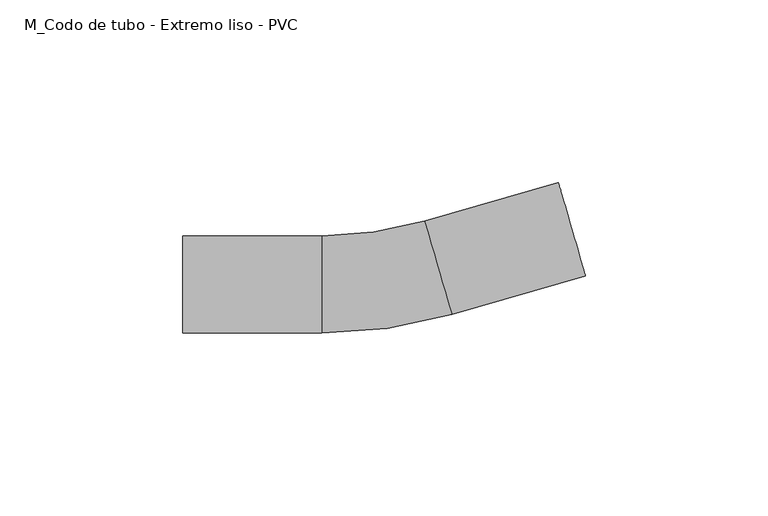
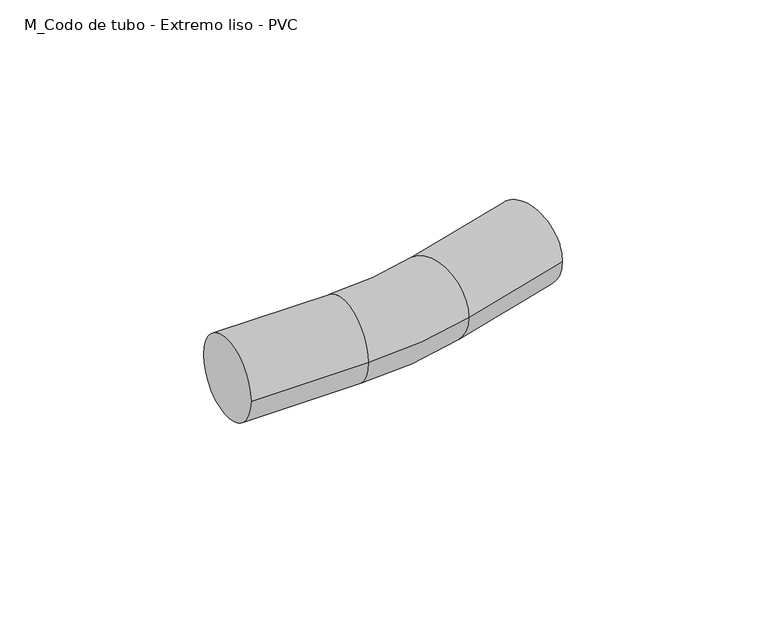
"""IFC4 building model written with IfcOpenShell, lengths in millimetres: cable carrier fitting geometry, M_Codo de tubo - Extremo liso - PVC : CODO ILUMINACION."""

import ifcopenshell
import ifcopenshell.guid

model = None  # the IFC model being written
_history = None  # IfcOwnerHistory: only IFC2X3 demands one
_inside = {}  # id of a spatial element -> (the spatial element, [elements in it])
_under = {}  # id of a project, library or spatial element -> (it, [spatial elements below it])
_declared = {}  # id of a project -> (the project, [libraries it declares])
_typed = {}  # id of a type object -> (the type object, [elements of that type])
_made_of = {}  # id of a material, layer set ... -> (it, [elements and type objects made of it])


def new_model(schema):
    """Start an empty IFC model of exactly this schema.

    Asked for "IFC4X3", IfcOpenShell would pick the latest addendum, in which some entities
    have other attributes; the version numbers below select the first issue.
    IFC2X3 requires an IfcOwnerHistory on every rooted entity: one is made here for all.
    """
    global model, _history
    if schema == "IFC4X3":
        model = ifcopenshell.file(schema_version=(4, 3, 0, 0))
    else:
        model = ifcopenshell.file(schema=schema)
    _inside.clear()
    _under.clear()
    _declared.clear()
    _typed.clear()
    _made_of.clear()
    _history = None
    if model.schema == "IFC2X3":
        org = make("IfcOrganization", Name="unknown")
        user = make(
            "IfcPersonAndOrganization",
            ThePerson=make("IfcPerson", FamilyName="unknown"),
            TheOrganization=org,
        )
        app = make(
            "IfcApplication",
            ApplicationDeveloper=org,
            Version="unknown",
            ApplicationFullName="unknown",
            ApplicationIdentifier="unknown",
        )
        _history = make(
            "IfcOwnerHistory",
            OwningUser=user,
            OwningApplication=app,
            ChangeAction="ADDED",
            CreationDate=0,
        )
    return model


def make(cls, **values):
    """One entity of the class cls with the attributes given. An attribute that is None is left unset."""
    return model.create_entity(
        cls, **{name: value for name, value in values.items() if value is not None}
    )


def rooted(cls, **values):
    """An entity with a GlobalId (a new one), such as an element, a storey or a relation."""
    return make(cls, GlobalId=ifcopenshell.guid.new(), OwnerHistory=_history, **values)


def si_unit(unit_type, name, prefix=None):
    """IfcSIUnit, for example si_unit("LENGTHUNIT", "METRE", prefix="MILLI")."""
    return make("IfcSIUnit", UnitType=unit_type, Prefix=prefix, Name=name)


def assignment(units):
    """IfcUnitAssignment: the units of a project."""
    return None if units is None else make("IfcUnitAssignment", Units=units)


def point(xyz):
    """IfcCartesianPoint."""
    return None if xyz is None else make("IfcCartesianPoint", Coordinates=xyz)


def direction(xyz):
    """IfcDirection."""
    return None if xyz is None else make("IfcDirection", DirectionRatios=xyz)


def frame(location, z_axis=None, x_axis=None):
    """IfcAxis2Placement3D, a coordinate frame: its origin and axes. An axis left out is left unset."""
    return make(
        "IfcAxis2Placement3D",
        Location=point(location),
        Axis=direction(z_axis),
        RefDirection=direction(x_axis),
    )


def origin():
    """The frame at (0, 0, 0) with its axes left unset."""
    return frame((0.0, 0.0, 0.0))


def place(relative_to, where):
    """IfcLocalPlacement: puts the frame where relative to a parent placement (None: the world)."""
    return make(
        "IfcLocalPlacement", PlacementRelTo=relative_to, RelativePlacement=where
    )


def context(
    kind, dimensions, precision=None, world=None, true_north=None, identifier=None
):
    """IfcGeometricRepresentationContext, for example the 3D "Model" context."""
    return make(
        "IfcGeometricRepresentationContext",
        ContextIdentifier=identifier,
        ContextType=kind,
        CoordinateSpaceDimension=dimensions,
        Precision=precision,
        WorldCoordinateSystem=world,
        TrueNorth=true_north,
    )


def project(units=None, contexts=None):
    """IfcProject with its units and contexts."""
    return rooted(
        "IfcProject",
        Name="project",
        RepresentationContexts=contexts,
        UnitsInContext=assignment(units),
    )


def spatial(cls, under=None, at=None, **own):
    """A site, building, storey or space (cls), placed at a placement, below another one or the project."""
    s = rooted(cls, ObjectPlacement=at, **own)
    if under is not None:
        _under.setdefault(under.id(), (under, []))[1].append(s)
    return s


def circle_curve(where, radius):
    """IfcCircle in the frame where."""
    return make("IfcCircle", Position=where, Radius=radius)


def ellipse_curve(where, semi_axis1, semi_axis2):
    """IfcEllipse in the frame where."""
    return make(
        "IfcEllipse", Position=where, SemiAxis1=semi_axis1, SemiAxis2=semi_axis2
    )


def trimmed(basis, trim1, trim2, sense, master):
    """IfcTrimmedCurve: the piece of a basis curve between two trims."""
    return make(
        "IfcTrimmedCurve",
        BasisCurve=basis,
        Trim1=trim1,
        Trim2=trim2,
        SenseAgreement=sense,
        MasterRepresentation=master,
    )


def shape(context_of_items, identifier, shape_type, items):
    """IfcShapeRepresentation: the items that make up one representation, for example the "Body"."""
    return make(
        "IfcShapeRepresentation",
        ContextOfItems=context_of_items,
        RepresentationIdentifier=identifier,
        RepresentationType=shape_type,
        Items=items,
    )


def source(mapping_origin, context_of_items, identifier, shape_type, items):
    """IfcRepresentationMap: a shape defined once, which mapped items show again and again."""
    return make(
        "IfcRepresentationMap",
        MappingOrigin=mapping_origin,
        MappedRepresentation=shape(context_of_items, identifier, shape_type, items),
    )


def transform(
    local_origin,
    x_axis=None,
    y_axis=None,
    z_axis=None,
    scale=None,
    scale2=None,
    scale3=None,
    uniform=True,
):
    """IfcCartesianTransformationOperator3D, or its non-uniform kind. x_axis, y_axis, z_axis: its Axis1, 2, 3."""
    if uniform:
        return make(
            "IfcCartesianTransformationOperator3D",
            Axis1=direction(x_axis),
            Axis2=direction(y_axis),
            LocalOrigin=point(local_origin),
            Scale=scale,
            Axis3=direction(z_axis),
        )
    return make(
        "IfcCartesianTransformationOperator3DnonUniform",
        Axis1=direction(x_axis),
        Axis2=direction(y_axis),
        LocalOrigin=point(local_origin),
        Scale=scale,
        Axis3=direction(z_axis),
        Scale2=scale2,
        Scale3=scale3,
    )


def mapped(mapping_source, mapping_target):
    """IfcMappedItem: shows the shape of a source again, moved by a transform."""
    return make(
        "IfcMappedItem", MappingSource=mapping_source, MappingTarget=mapping_target
    )


def made_of(thing, what):
    """Note that an element or type object is made of a material, layer set ...; save() writes the relation."""
    if what is not None:
        _made_of.setdefault(what.id(), (what, []))[1].append(thing)
    return thing


def element(
    cls,
    number,
    at=None,
    inside=None,
    cuts=None,
    type_object=None,
    material=None,
    context=None,
    identifier="Body",
    shape_type=None,
    held_by="IfcProductDefinitionShape",
    body=None,
    shapes=None,
    **own,
):
    """One element of the class cls, such as IfcWall. Its Tag is "e" and its number.

    at: its placement. inside: the storey or other place that contains it. cuts: it is an
    opening in that element (IfcRelVoidsElement). A single representation is given by context,
    identifier, shape_type and body (its items); several are given by shapes. held_by: the class
    of the entity that holds the representations. save() writes the other relations.
    """
    e = rooted(cls, Tag="e%d" % number, ObjectPlacement=at, **own)
    if body is not None:
        shapes = [shape(context, identifier, shape_type, body)]
    if shapes is not None:
        e.Representation = make(held_by, Representations=shapes)
    if inside is not None:
        _inside.setdefault(inside.id(), (inside, []))[1].append(e)
    if cuts is not None:
        rooted(
            "IfcRelVoidsElement", RelatingBuildingElement=cuts, RelatedOpeningElement=e
        )
    if type_object is not None:
        _typed.setdefault(type_object.id(), (type_object, []))[1].append(e)
    return made_of(e, material)


def aggregate(whole, parts):
    """IfcRelAggregates: a whole, such as a stair, and the parts it consists of."""
    return rooted("IfcRelAggregates", RelatingObject=whole, RelatedObjects=parts)


def save(model, path):
    """Write the relations noted so far, then the file.

    IfcRelAggregates (storeys below a building ...), IfcRelContainedInSpatialStructure (elements
    in a storey), IfcRelDefinesByType, IfcRelAssociatesMaterial and IfcRelDeclares: one each for
    every whole, place, type object, material and project.
    """
    for whole, parts in _under.values():
        aggregate(whole, parts)
    for where, things in _inside.values():
        rooted(
            "IfcRelContainedInSpatialStructure",
            RelatedElements=things,
            RelatingStructure=where,
        )
    for kind, things in _typed.values():
        rooted("IfcRelDefinesByType", RelatedObjects=things, RelatingType=kind)
    for what, things in _made_of.values():
        rooted("IfcRelAssociatesMaterial", RelatedObjects=things, RelatingMaterial=what)
    for by, libraries in _declared.values():
        rooted("IfcRelDeclares", RelatingContext=by, RelatedDefinitions=libraries)
    model.write(path)


def plane_surface(at):
    """IfcPlane: the flat surface through the origin of the frame at, square to its z axis."""
    return make("IfcPlane", Position=at)


def cylinder_surface(at, radius):
    """IfcCylindricalSurface: all points at the distance radius from the z axis of the frame at."""
    return make("IfcCylindricalSurface", Position=at, Radius=radius)


def revolved_surface(curve, axis_point, axis_direction):
    """IfcSurfaceOfRevolution: the curve turned about the line through axis_point along axis_direction."""
    return make(
        "IfcSurfaceOfRevolution",
        SweptCurve=make("IfcArbitraryOpenProfileDef", ProfileType="CURVE", Curve=curve),
        AxisPosition=make("IfcAxis1Placement", Location=point(axis_point), Axis=direction(axis_direction)),
    )


def advanced_brep(points, edges, surfaces, faces):
    """IfcAdvancedBrep: a solid bounded by faces that lie on surfaces and meet in shared edges.

    An edge is (start, end): straight between two places in points (the first is 0);
    or (start, end, curve); or (start, end, curve, False) where it runs against its curve.
    A face is (place in surfaces, loops), or (place, loops, False) where it looks against
    its surface's normal. A loop lists edges by number (the first is 1), with a minus sign
    where the edge is run from its end to its start. The first loop is the outer one.
    """
    corners = [point(p) for p in points]
    vertices = [make("IfcVertexPoint", VertexGeometry=c) for c in corners]
    made = []
    for start, end, *more in edges:
        made.append(
            make(
                "IfcEdgeCurve",
                EdgeStart=vertices[start],
                EdgeEnd=vertices[end],
                EdgeGeometry=more[0] if more else make("IfcPolyline", Points=[corners[start], corners[end]]),
                SameSense=more[1] if len(more) > 1 else True,
            )
        )
    hull = []
    for where, loops, *sense in faces:
        bounds = []
        for j, loop in enumerate(loops):
            ring = [make("IfcOrientedEdge", EdgeElement=made[abs(k) - 1], Orientation=k > 0) for k in loop]
            bounds.append(
                make(
                    "IfcFaceOuterBound" if j == 0 else "IfcFaceBound",
                    Bound=make("IfcEdgeLoop", EdgeList=ring),
                    Orientation=True,
                )
            )
        hull.append(make("IfcAdvancedFace", Bounds=bounds, FaceSurface=surfaces[where], SameSense=sense[0] if sense else True))
    return make("IfcAdvancedBrep", Outer=make("IfcClosedShell", CfsFaces=hull))


def m_codo_de_tubo_extremo_liso_pvc_5f2cad99(model_context):
    return source(origin(), model_context, "Body", "AdvancedBrep", [
        advanced_brep(
        [(-54.3804763, -13.335, 0.0), (-54.3804763, 13.335, 0.0), (-16.2804763, -13.335, 0.0), (-16.2804763, 13.335, 0.0), (11.9097715, 17.3503164, 0.0), (19.356252, -8.259034, 0.0), (55.9410383, 2.3787954, 0.0), (48.4945577, 27.9881457, 0.0)],
        [
            (0, 1, circle_curve(frame((-54.3804763, 0.0, 0.0), z_axis=(-1.0, 0.0, 0.0), x_axis=(0.0, 1.0, 0.0)), 13.335)),
            (1, 0, circle_curve(frame((-54.3804763, 0.0, 0.0), z_axis=(-1.0, 0.0, 0.0), x_axis=(0.0, 1.0, 0.0)), 13.335)),
            (0, 2),
            (2, 3, circle_curve(frame((-16.2804763, 0.0, 0.0), z_axis=(-1.0, 0.0, 0.0), x_axis=(0.0, 1.0, 0.0)), 13.335)),
            (3, 1),
            (3, 2, circle_curve(frame((-16.2804763, 0.0, 0.0), z_axis=(-1.0, 0.0, 0.0), x_axis=(0.0, 1.0, 0.0)), 13.335)),
            (4, 3, circle_curve(frame((-16.2804763, 114.3, 0.0), z_axis=(0.0, 0.0, -1.0), x_axis=(0.0, -1.0, 0.0)), 100.965)),
            (2, 5, circle_curve(frame((-16.2804763, 114.3, 0.0), z_axis=(0.0, 0.0, 1.0), x_axis=(0.0, -1.0, 0.0)), 127.635)),
            (5, 4, circle_curve(frame((15.6330117, 4.5456412, 0.0), z_axis=(-0.9602306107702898, -0.2792081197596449, 0.0), x_axis=(-0.2792081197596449, 0.9602306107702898, 0.0)), 13.335)),
            (4, 5, circle_curve(frame((15.6330117, 4.5456412, 0.0), z_axis=(-0.9602306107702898, -0.2792081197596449, 0.0), x_axis=(-0.2792081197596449, 0.9602306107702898, 0.0)), 13.335)),
            (6, 7, circle_curve(frame((52.217798, 15.1834706, 0.0), z_axis=(0.9602306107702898, 0.27920811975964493, 0.0), x_axis=(-0.27920811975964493, 0.9602306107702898, 0.0)), 13.335)),
            (7, 6, circle_curve(frame((52.217798, 15.1834706, 0.0), z_axis=(0.9602306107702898, 0.27920811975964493, 0.0), x_axis=(-0.27920811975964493, 0.9602306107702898, 0.0)), 13.335)),
            (5, 6),
            (7, 4),
        ],
        [
            plane_surface(frame((-54.3804763, 0.0, 0.0), z_axis=(-1.0, 0.0, 0.0), x_axis=(0.0, 0.0, 1.0))),
            cylinder_surface(frame((-54.3804763, 0.0, 0.0), z_axis=(-1.0, 0.0, 0.0), x_axis=(0.0, 1.0, 0.0)), 13.335),
            revolved_surface(trimmed(ellipse_curve(frame((-16.2804763, 0.0, 0.0), z_axis=(-1.0, 0.0, 0.0), x_axis=(0.0, 1.0, 0.0)), 13.335, 13.335), [point((-16.2804763, -13.335, 0.0))], [point((-16.2804763, 13.335, 0.0))], True, "CARTESIAN"), (-16.2804763, 114.3, 0.0), (0.0, 0.0, 1.0)),
            revolved_surface(trimmed(ellipse_curve(frame((-16.2804763, 0.0, 0.0), z_axis=(-1.0, 0.0, 0.0), x_axis=(0.0, 1.0, 0.0)), 13.335, 13.335), [point((-16.2804763, 13.335, 0.0))], [point((-16.2804763, -13.335, 0.0))], True, "CARTESIAN"), (-16.2804763, 114.3, 0.0), (0.0, 0.0, 1.0)),
            plane_surface(frame((52.217798, 15.1834706, 0.0), z_axis=(0.9602306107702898, 0.27920811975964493, 0.0), x_axis=(0.0, 0.0, 1.0))),
            cylinder_surface(frame((15.6330117, 4.5456412, 0.0), z_axis=(-0.9602306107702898, -0.27920811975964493, 0.0), x_axis=(-0.27920811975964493, 0.9602306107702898, 0.0)), 13.335),
        ],
        [
            (0, [[1, 2]]),
            (1, [[-1, 3, 4, 5]]),
            (1, [[-2, -5, 6, -3]]),
            (2, [[7, -4, 8, 9]]),
            (3, [[-8, -6, -7, 10]]),
            (4, [[11, 12]]),
            (5, [[-9, 13, -12, 14]]),
            (5, [[-10, -14, -11, -13]]),
        ],
    ),
    ])


if __name__ == "__main__":
    model = new_model("IFC4")
    model_context = context("Model", 3, world=origin())
    ifc_project = project(units=[si_unit("LENGTHUNIT", "METRE", prefix="MILLI")], contexts=[model_context])
    site = spatial("IfcSite", under=ifc_project)
    building = spatial("IfcBuilding", under=site)
    placement = place(None, origin())
    m_codo_de_tubo_extremo_liso_pvc_shape = m_codo_de_tubo_extremo_liso_pvc_5f2cad99(model_context)
    element("IfcCableCarrierFitting", 1, ObjectType="M_Codo de tubo - Extremo liso - PVC : CODO ILUMINACION", at=placement, inside=building, context=model_context, shape_type="MappedRepresentation", body=[
        mapped(m_codo_de_tubo_extremo_liso_pvc_shape, transform((0.0, 0.0, 0.0), x_axis=(1.0, 0.0, 0.0), y_axis=(0.0, 1.0, 0.0), z_axis=(0.0, 0.0, 1.0))),
    ])
    save(model, "model.ifc")
